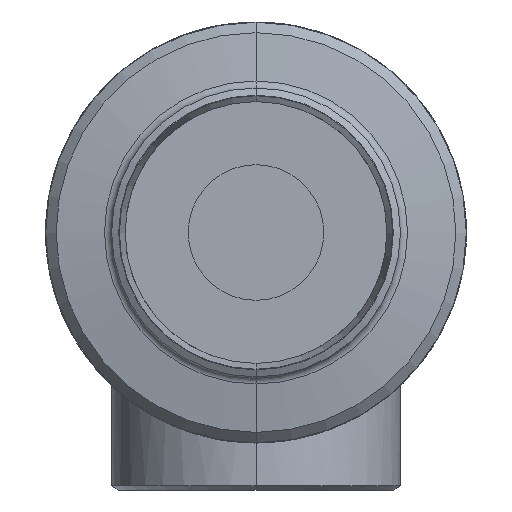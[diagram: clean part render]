
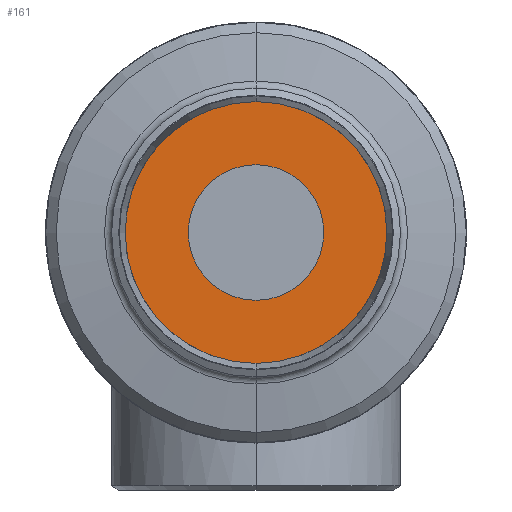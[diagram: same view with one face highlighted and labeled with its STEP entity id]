
A CAD part, front view. The second image highlights one B-rep face of the part: STEP entity #161.
In plain terms, the highlighted planar face has unit normal (0, -1, 0) as drawn and (0, 0, 1) by its records, which use the part's own axes.
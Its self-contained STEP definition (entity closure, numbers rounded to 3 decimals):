
#41 = EDGE_CURVE ( 'NONE', #4043, #4261, #746, .T. ) ;
#73 = ORIENTED_EDGE ( 'NONE', *, *, #41, .T. ) ;
#128 = EDGE_LOOP ( 'NONE', ( #73, #12786 ) ) ;
#161 = ADVANCED_FACE ( 'NONE', ( #2141, #2142 ), #2143, .T. ) ;
#376 = VERTEX_POINT ( 'NONE', #4961 ) ;
#746 = CIRCLE ( 'NONE', #747, 85. ) ;
#747 = AXIS2_PLACEMENT_3D ( 'NONE', #748, #749, #750 ) ;
#748 = CARTESIAN_POINT ( 'NONE',  ( 0., 0., 16. ) ) ;
#749 = DIRECTION ( 'NONE',  ( 0., 0., 1. ) ) ;
#750 = DIRECTION ( 'NONE',  ( 1., 0., 0. ) ) ;
#2141 = FACE_OUTER_BOUND ( 'NONE', #128, .T. ) ;
#2142 = FACE_BOUND ( 'NONE', #12762, .T. ) ;
#2143 = PLANE ( 'NONE',  #2144 ) ;
#2144 = AXIS2_PLACEMENT_3D ( 'NONE', #2145, #2146, #2147 ) ;
#2145 = CARTESIAN_POINT ( 'NONE',  ( 0., 0., 16. ) ) ;
#2146 = DIRECTION ( 'NONE',  ( 0., 0., 1. ) ) ;
#2147 = DIRECTION ( 'NONE',  ( 1., 0., 0. ) ) ;
#2898 = CARTESIAN_POINT ( 'NONE',  ( -39.5, 0., 16. ) ) ;
#2972 = CIRCLE ( 'NONE', #2973, 39.5 ) ;
#2973 = AXIS2_PLACEMENT_3D ( 'NONE', #2974, #2975, #2976 ) ;
#2974 = CARTESIAN_POINT ( 'NONE',  ( 0., 0., 16. ) ) ;
#2975 = DIRECTION ( 'NONE',  ( 0., 0., 1. ) ) ;
#2976 = DIRECTION ( 'NONE',  ( 1., 0., 0. ) ) ;
#4043 = VERTEX_POINT ( 'NONE', #6702 ) ;
#4261 = VERTEX_POINT ( 'NONE', #8480 ) ;
#4479 = EDGE_CURVE ( 'NONE', #4261, #4043, #8764, .T. ) ;
#4961 = CARTESIAN_POINT ( 'NONE',  ( 39.5, 0., 16. ) ) ;
#5056 = CIRCLE ( 'NONE', #5057, 39.5 ) ;
#5057 = AXIS2_PLACEMENT_3D ( 'NONE', #5058, #5059, #5060 ) ;
#5058 = CARTESIAN_POINT ( 'NONE',  ( 0., 0., 16. ) ) ;
#5059 = DIRECTION ( 'NONE',  ( 0., 0., 1. ) ) ;
#5060 = DIRECTION ( 'NONE',  ( 1., 0., 0. ) ) ;
#6702 = CARTESIAN_POINT ( 'NONE',  ( -85., 0., 16. ) ) ;
#6800 = VERTEX_POINT ( 'NONE', #2898 ) ;
#6977 = EDGE_CURVE ( 'NONE', #376, #6800, #2972, .T. ) ;
#8480 = CARTESIAN_POINT ( 'NONE',  ( 85., 0., 16. ) ) ;
#8764 = CIRCLE ( 'NONE', #8765, 85. ) ;
#8765 = AXIS2_PLACEMENT_3D ( 'NONE', #8766, #8767, #8770 ) ;
#8766 = CARTESIAN_POINT ( 'NONE',  ( 0., 0., 16. ) ) ;
#8767 = DIRECTION ( 'NONE',  ( 0., 0., 1. ) ) ;
#8770 = DIRECTION ( 'NONE',  ( 1., 0., 0. ) ) ;
#12029 = ORIENTED_EDGE ( 'NONE', *, *, #6977, .F. ) ;
#12540 = EDGE_CURVE ( 'NONE', #6800, #376, #5056, .T. ) ;
#12703 = ORIENTED_EDGE ( 'NONE', *, *, #12540, .F. ) ;
#12762 = EDGE_LOOP ( 'NONE', ( #12703, #12029 ) ) ;
#12786 = ORIENTED_EDGE ( 'NONE', *, *, #4479, .T. ) ;
